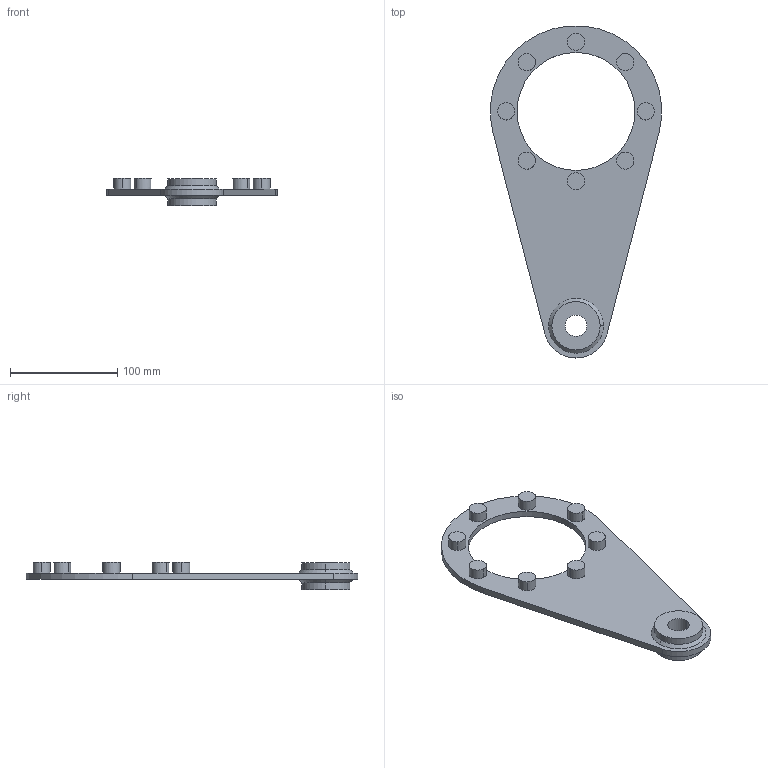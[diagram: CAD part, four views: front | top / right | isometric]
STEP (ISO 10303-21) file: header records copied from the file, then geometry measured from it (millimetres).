
FILE_DESCRIPTION(/* description */ (''),/* implementation_level */ '2;1');
FILE_NAME(/* name */ '8_BRACCIO DI REAZIONE NMRV-P090',/* time_stamp */ '2025-10-09T15:28:13+02:00',/* author */ (''),/* organization */ (''),/* preprocessor_version */ 'ST-DEVELOPER v19.2',/* originating_system */ 'Rhino 8.23',/* authorisation */ '');
FILE_SCHEMA (('CONFIG_CONTROL_DESIGN'));
Length unit declared in the file: millimetre
Products named in the file (2): Document; 90-200-p
Bounding box: 159.5 x 309.7 x 25.5 mm (x, y, z)
Volume: 187732.6 mm3; surface area: 63109.7 mm2
Topology: 1 solids, 1 shells, 44 faces, 100 edges, 68 vertices
Faces by surface type: cylinder 26, plane 14, bspline 4
Entity records: 1604 total; most frequent: CARTESIAN_POINT 416, ORIENTED_EDGE 200, DIRECTION 176, AXIS2_PLACEMENT_3D 108, EDGE_CURVE 100, VERTEX_POINT 68, TRIMMED_CURVE 64, CIRCLE 64
